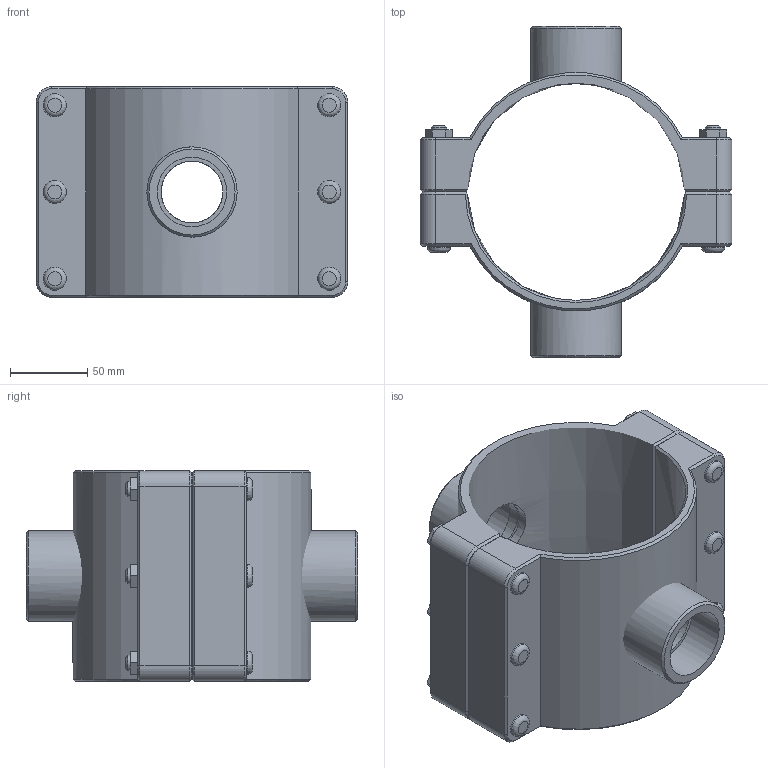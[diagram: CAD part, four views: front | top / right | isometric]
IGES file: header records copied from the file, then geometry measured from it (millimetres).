
Global section: file name: 161760140015_161860140015.ipt; native system: Autodesk Inventor 2015; preprocessor: unknown; author: KIM; date: 20170618.093801; units: millimetre
Bounding box: 201 x 214 x 136 mm (x, y, z)
Volume: 1000646 mm3; surface area: 192545.2 mm2
Topology: 3 solids, 3 shells, 179 faces, 416 edges, 265 vertices
Faces by surface type: plane 102, cylinder 30, cone 28, revolution 19
Full cylindrical faces by diameter (mm): 10 x6, 15 x12, 58.298 x2
